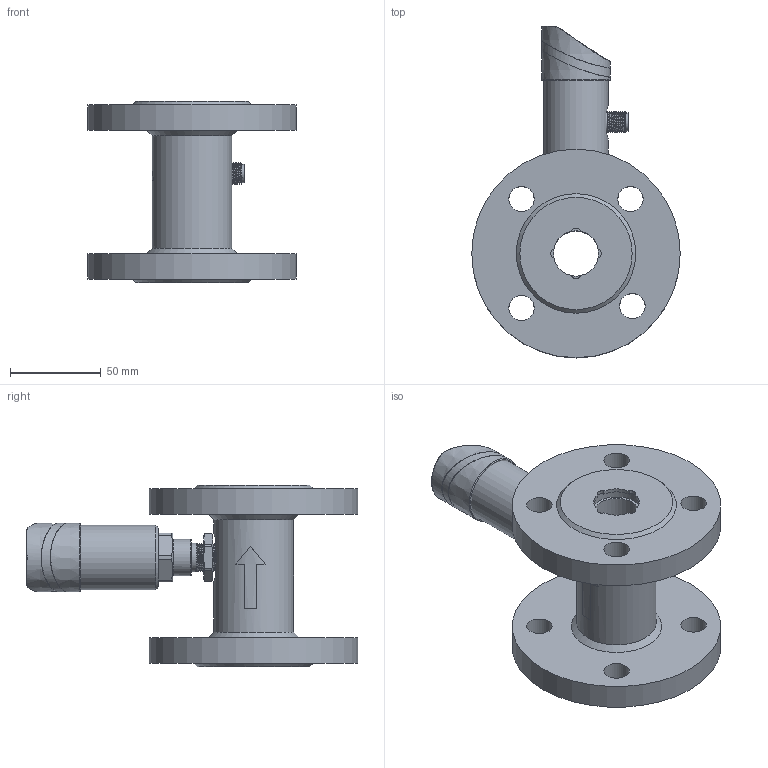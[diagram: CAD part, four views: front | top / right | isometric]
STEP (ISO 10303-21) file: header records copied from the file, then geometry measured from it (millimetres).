
FILE_DESCRIPTION( (''), '2;1');
FILE_NAME( 'QTKE_DN25_flange.step', '2024-10-14T14:56:23+08:00', (''), (''), '', '', '');
FILE_SCHEMA (('AUTOMOTIVE_DESIGN { 1 0 10303 214 3 1 1 1 }'));
Length unit declared in the file: millimetre
Products named in the file (1): QTKE DN25_flange
Bounding box: 115 x 183 x 100 mm (x, y, z)
Volume: 404585.4 mm3; surface area: 94828.2 mm2
Topology: 5 solids, 6 shells, 762 faces, 1982 edges, 1294 vertices
Faces by surface type: plane 286, cylinder 157, extrusion 141, cone 76, bspline 59, torus 32, sphere 11
Full cylindrical faces by diameter (mm): 1.689 x1, 2.7 x3, 12 x1, 14 x8, 15.9 x1, 16.5 x2, 20 x1, 23 x3, 25 x1, 26 x5, 28 x2, 35.5 x1, 37.001 x1, 44 x1, 115 x2
Entity records: 34061 total; most frequent: CARTESIAN_POINT 15060, ORIENTED_EDGE 3758, DIRECTION 3065, EDGE_CURVE 1879, VERTEX_POINT 1260, AXIS2_PLACEMENT_3D 1041, VECTOR 983, EDGE_LOOP 915
